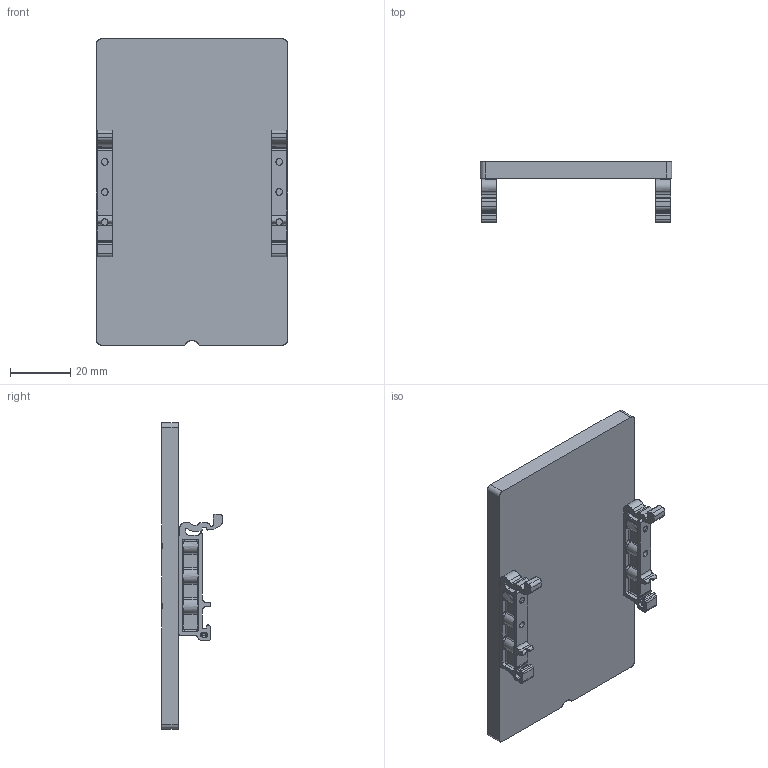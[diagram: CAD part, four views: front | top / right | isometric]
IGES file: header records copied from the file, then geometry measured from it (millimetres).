
Start section: SolidWorks IGES file using analytic representation for surfaces
Global section: file name: W:\end-user\products\dinp\dinpp11-2540a\3dmodel\rev_a\render\dinpp11-2540a_rev_a.igs; native system: SolidWorks 2018; preprocessor: SolidWorks 2018; author: leviroy; date: 230731.160823; units: inch
Bounding box: 63.5 x 20.24 x 101.6 mm (x, y, z)
Surface area: 18885.4 mm2 (no closed solid volume)
Topology: 0 solids, 0 shells, 814 faces, 7088 edges, 7066 vertices
Faces by surface type: bspline 509, revolution 305
